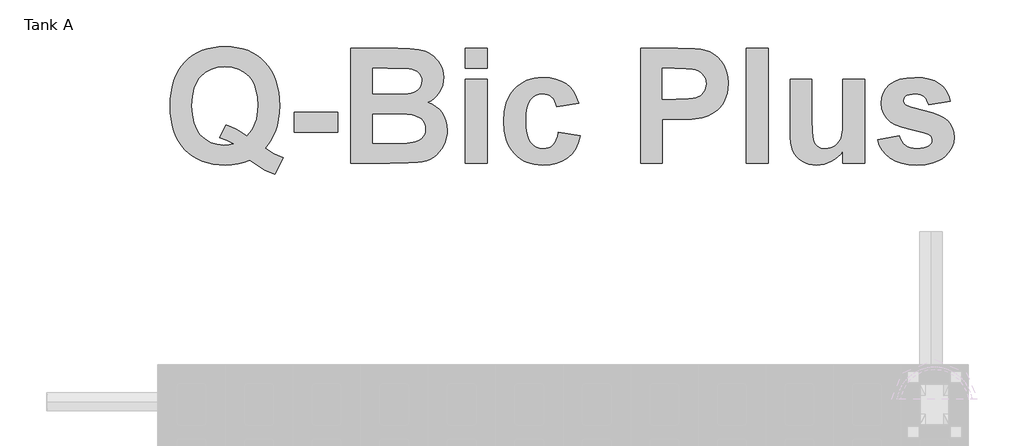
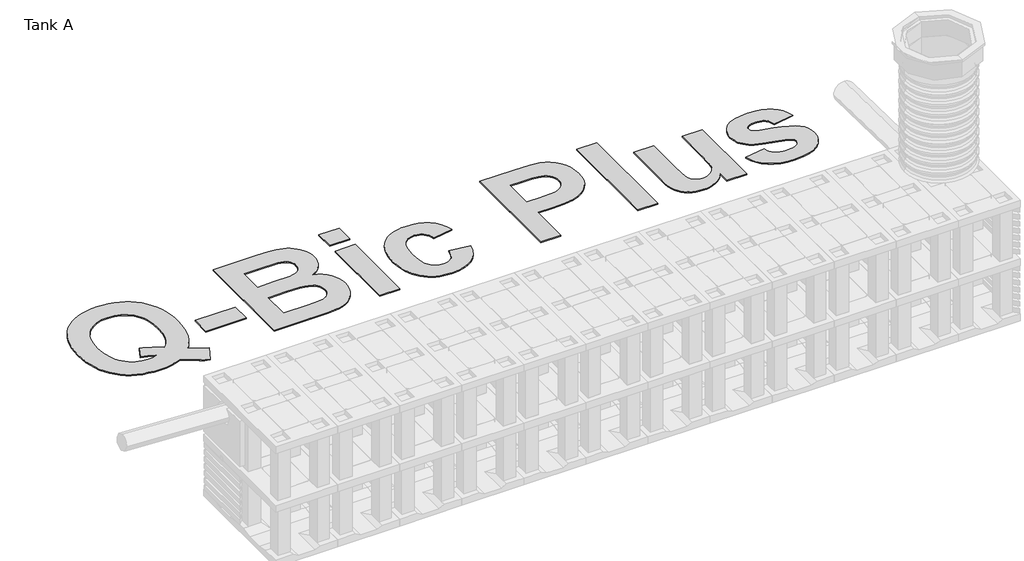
# One storey, part 6 of 6: 1 proxy.
"""IFC4 building model written with IfcOpenShell, lengths in millimetres."""

from ifc_helpers import new_model, si_unit, frame, origin, place, context, project, spatial, polyline, outline, extrude, element, save

model = new_model("IFC4")

# Units and contexts
model_context = context("Model", 3, world=origin())
ifc_project = project(units=[si_unit("LENGTHUNIT", "METRE", prefix="MILLI")], contexts=[model_context])

# Site, building, storey
site = spatial("IfcSite", under=ifc_project)
building = spatial("IfcBuilding", under=site)
storey = spatial("IfcBuildingStorey", under=building, Name="Tank A", Elevation=-2300.0)

# Proxy
placement = place(None, origin())
element("IfcBuildingElementProxy", 1, Name="Arial", ObjectType="Arial", at=placement, inside=storey, context=model_context, shape_type="SweptSolid", body=[
    extrude(outline(polyline([(3439.7532774, 11883.2447891), (3516.8041175, 11834.8507886), (3600.1809707, 11797.4640509), (3526.2931372, 11651.712708), (3481.441704, 11667.4012206), (3437.4759127, 11688.1505438), (3304.1235556, 11775.9556062), (3253.8317511, 11757.0250119), (3200.8830211, 11743.5031588), (3145.2773655, 11735.3900469), (3087.0147845, 11732.6856763), (3031.0097993, 11734.8444283), (2978.1282832, 11741.3206842), (2928.3702361, 11752.1144442), (2881.7356579, 11767.2257081), (2838.2245488, 11786.6544759), (2797.8369086, 11810.4007478), (2760.5727374, 11838.4645236), (2726.4320352, 11870.8458034), (2695.889253, 11907.1333963), (2669.4188418, 11946.9161114), (2647.0208015, 11990.1939489), (2628.6951321, 12036.9669085), (2614.4418338, 12087.2349905), (2604.2609064, 12140.9981947), (2598.1523499, 12198.2565212), (2596.1161644, 12259.0099699), (2598.168165, 12319.5914302), (2604.3241665, 12376.713352), (2614.5841691, 12430.3757354), (2628.9481727, 12480.5785803), (2647.4161773, 12527.3218868), (2669.9881829, 12570.6056549), (2696.6641896, 12610.4298845), (2727.4441973, 12646.7945757), (2761.7390961, 12679.264815), (2798.9597759, 12707.4056891), (2839.1062368, 12731.217198), (2882.1784788, 12750.6993416), (2928.1765019, 12765.8521199), (2977.1003061, 12776.6755331), (3028.9498913, 12783.1695809), (3083.7252576, 12785.3342635), (3138.0143117, 12783.1794653), (3189.4171222, 12776.7150706), (3237.9336893, 12765.9410795), (3283.5640129, 12750.8574919), (3326.3080929, 12731.4643079), (3366.1659295, 12707.7615274), (3403.1375226, 12679.7491504), (3437.2228721, 12647.427177), (3467.8249607, 12611.2265668), (3494.3467708, 12571.5782794), (3516.7883025, 12528.4823148), (3535.1495556, 12481.9386731), (3549.4305303, 12431.9473543), (3559.6312265, 12378.5083582), (3565.7516442, 12321.621685), (3567.7917834, 12261.2873347), (3565.4511586, 12197.6160124), (3558.429284, 12137.9300783), (3546.7261597, 12082.2295326), (3530.3417856, 12030.5143751), (3514.0523018, 11992.7480767), (3493.5243891, 11955.6143795), (3468.7580477, 11919.1132837), (3439.7532774, 11883.2447891)]), holes=[polyline([(3278.5664625, 11994.3295799), (3300.8577513, 12018.7005456), (3320.1599989, 12045.5070263), (3336.4732053, 12074.7490221), (3349.7973705, 12106.4265329), (3360.1483095, 12140.5395588), (3367.5418374, 12177.0880997), (3373.4566596, 12257.4917268), (3368.4274792, 12339.8643254), (3353.3399378, 12411.118956), (3342.0242818, 12442.5770332), (3328.1940356, 12471.2556184), (3311.8491991, 12497.1547116), (3292.9897724, 12520.2743128), (3249.6407674, 12558.3015593), (3200.0606394, 12585.4638782), (3144.2493884, 12601.7612696), (3082.2070145, 12607.1937334), (3020.2516232, 12601.8008072), (2964.4482798, 12585.6220286), (2914.7969841, 12558.6573975), (2871.2977362, 12520.9069141), (2852.34935, 12497.9751165), (2835.9274152, 12472.3231332), (2822.031932, 12443.9509642), (2810.6629002, 12412.8586096), (2795.5041912, 12342.5133434), (2790.4512882, 12261.2873347), (2795.4330236, 12178.8910134), (2810.3782296, 12107.5652152), (2821.5871342, 12076.0537623), (2835.2869064, 12047.30994), (2851.4775463, 12021.3337486), (2870.1590539, 11998.1251878), (2912.6382321, 11959.9318835), (2960.3680013, 11932.6509518), (3013.3483614, 11916.2823928), (3071.5793124, 11910.8262064), (3115.671624, 11914.1157333), (3157.3600506, 11923.9843138), (3095.8712029, 11953.463535), (3033.370193, 11975.604581), (3089.5451897, 12088.9667366), (3138.4610864, 12071.1906397), (3186.2699307, 12049.4924146), (3232.9717227, 12023.8720613), (3278.5664625, 11994.3295799)])]), frame((0.0, 0.0, -2300.0), z_axis=(0.0, 0.0, 1.0), x_axis=(1.0, 0.0, 0.0)), (0.0, 0.0, 1.0), 10.0),
    extrude(outline(polyline([(3697.3485327, 12024.188362), (3697.3485327, 12202.3288921), (4086.0187803, 12202.3288921), (4086.0187803, 12024.188362), (3697.3485327, 12024.188362)])), frame((0.0, 0.0, -2300.0), z_axis=(0.0, 0.0, 1.0), x_axis=(1.0, 0.0, 0.0)), (0.0, 0.0, 1.0), 10.0),
    extrude(outline(polyline([(4199.3809358, 12769.1396699), (4618.163006, 12769.1396699), (4726.6225013, 12766.6092646), (4803.5151911, 12759.0180489), (4861.3982114, 12743.3611663), (4887.9200215, 12731.3812789), (4912.8286982, 12716.6337608), (4935.9265537, 12699.1739645), (4957.0159001, 12679.0572427), (4976.0967372, 12656.2835954), (4993.1690652, 12630.8530226), (5007.2286294, 12603.2795128), (5017.2711753, 12574.0770546), (5023.2967028, 12543.245648), (5025.305212, 12510.7852931), (5022.9092345, 12475.5810299), (5015.721302, 12441.8317498), (5003.7414147, 12409.5374527), (4986.9695723, 12378.6981386), (4966.0858214, 12350.468305), (4941.7702084, 12326.0024491), (4914.0227332, 12305.3005711), (4882.8433959, 12288.3626709), (4922.5391284, 12272.4527479), (4957.3638308, 12251.7983149), (4987.317503, 12226.3993722), (5012.4001451, 12196.2559195), (5032.2163813, 12162.301044), (5046.3708357, 12125.4678324), (5054.8635084, 12085.7562849), (5057.6943993, 12043.1664014), (5055.6621675, 12008.7449824), (5049.5654724, 11974.8138294), (5039.4043138, 11941.3729424), (5025.1786917, 11908.4223214), (5007.4342248, 11877.3615969), (4986.7165318, 11849.5903992), (4963.0256126, 11825.1087283), (4936.3614671, 11803.9165843), (4906.5738528, 11786.2432851), (4873.5125266, 11772.3181486), (4837.1774886, 11762.141175), (4797.5687388, 11755.7123641), (4709.3841155, 11751.2208948), (4548.0707803, 11748.8802699), (4199.3809358, 11748.8802699), (4199.3809358, 12769.1396699)]), holes=[polyline([(4393.7160596, 12590.9991397), (4393.7160596, 12364.2748286), (4541.9978077, 12364.2748286), (4706.4741495, 12367.5643555), (4733.905324, 12372.0400098), (4758.2525671, 12379.3940001), (4779.5158787, 12389.6263263), (4797.695259, 12402.7369886), (4812.2529968, 12418.4413162), (4822.6513809, 12436.4546386), (4828.8904113, 12456.7769559), (4830.9700882, 12479.4082679), (4829.1750819, 12501.0036952), (4823.7900632, 12520.4957232), (4814.8150321, 12537.8843519), (4802.2499885, 12553.1695811), (4786.1581925, 12566.0034803), (4766.6029044, 12576.0381187), (4743.5841241, 12583.2734962), (4717.1018516, 12587.7096129), (4523.7788899, 12590.9991397), (4393.7160596, 12590.9991397)]), polyline([(4393.7160596, 12186.1342985), (4393.7160596, 11927.0208001), (4599.1849665, 11927.0208001), (4697.3646905, 11928.5390432), (4751.5153631, 11933.0937727), (4775.1588372, 11938.4471613), (4796.4933165, 11946.6630709), (4815.5188011, 11957.7415014), (4832.2352908, 11971.6824529), (4845.8520341, 11988.359405), (4855.5782793, 12007.6458376), (4861.4140264, 12029.5417506), (4863.3592755, 12054.047144), (4861.8568473, 12074.9862475), (4857.349563, 12094.2805876), (4849.8374224, 12111.9301643), (4839.3204255, 12127.9349776), (4825.9725378, 12142.089432), (4809.9677245, 12154.1879321), (4769.9873214, 12172.2170696), (4740.6978806, 12178.3058572), (4698.1238121, 12182.6549913), (4573.1217924, 12186.1342985), (4393.7160596, 12186.1342985)])]), frame((0.0, 0.0, -2300.0), z_axis=(0.0, 0.0, 1.0), x_axis=(1.0, 0.0, 0.0)), (0.0, 0.0, 1.0), 10.0),
    extrude(outline(polyline([(5219.6403358, 11748.8802699), (5219.6403358, 12493.8315778), (5413.9754596, 12493.8315778), (5413.9754596, 11748.8802699), (5219.6403358, 11748.8802699)])), frame((0.0, 0.0, -2300.0), z_axis=(0.0, 0.0, 1.0), x_axis=(1.0, 0.0, 0.0)), (0.0, 0.0, 1.0), 10.0),
    extrude(outline(polyline([(5219.6403358, 12590.9991397), (5219.6403358, 12769.1396699), (5413.9754596, 12769.1396699), (5413.9754596, 12590.9991397), (5219.6403358, 12590.9991397)])), frame((0.0, 0.0, -2300.0), z_axis=(0.0, 0.0, 1.0), x_axis=(1.0, 0.0, 0.0)), (0.0, 0.0, 1.0), 10.0),
    extrude(outline(polyline([(6223.7051421, 12283.3018604), (6029.3700183, 12250.9126731), (6023.3682133, 12277.3791306), (6014.4722573, 12300.3504658), (6002.6821503, 12319.8266788), (5987.9978923, 12335.8077695), (5970.6567088, 12348.2621079), (5950.8958252, 12357.1580639), (5928.7152416, 12362.4956374), (5904.114958, 12364.2748286), (5871.5676204, 12360.9378567), (5842.49959, 12350.9269409), (5816.9108668, 12334.2420812), (5794.8014509, 12310.8832777), (5776.9779088, 12279.7118479), (5764.2468074, 12239.5891096), (5756.6081465, 12190.5150626), (5754.0619262, 12132.489707), (5756.7109442, 12068.0118181), (5764.6579982, 12013.7504403), (5777.9030883, 11969.7055738), (5796.4462143, 11935.8772185), (5819.4491796, 11910.7471313), (5846.0737874, 11892.797069), (5876.3200377, 11882.0270316), (5910.1879306, 11878.4370191), (5935.6738561, 11880.4850659), (5958.7400815, 11886.6292062), (5979.3866069, 11896.8694399), (5997.6134323, 11911.2057672), (6013.3731125, 11930.5554599), (6026.6182025, 11955.83579), (6037.3487023, 11987.0467573), (6045.5646119, 12024.188362), (6239.8997357, 11991.7991747), (6221.989211, 11931.5834371), (6197.3572973, 11879.2277708), (6166.0039947, 11834.7321758), (6127.9293031, 11798.0966522), (6082.9750721, 11769.4793502), (6030.9831516, 11749.0384203), (5971.9535415, 11736.7738623), (5905.8862417, 11732.6856763), (5867.3509372, 11734.2948559), (5830.8201882, 11739.1223947), (5796.2939946, 11747.1682926), (5763.7723564, 11758.4325498), (5733.2552736, 11772.9151661), (5704.7427462, 11790.6161417), (5678.2347743, 11811.5354764), (5653.7313577, 11835.6731703), (5631.6990401, 11862.6536163), (5612.6043648, 11892.1012075), (5596.4473318, 11924.0159438), (5583.2279412, 11958.3978253), (5572.946193, 11995.2468519), (5565.6020871, 12034.5630235), (5559.7268024, 12120.5968023), (5565.5625495, 12207.6032056), (5572.8572334, 12247.2811462), (5583.0697909, 12284.4089127), (5596.2002219, 12318.9865052), (5612.2485265, 12351.0139236), (5631.2147047, 12380.491168), (5653.0987564, 12407.4182383), (5677.4736758, 12431.4669726), (5703.912457, 12452.3092091), (5732.4151, 12469.9449476), (5762.9816047, 12484.3741882), (5795.6119713, 12495.5969309), (5830.3061996, 12503.6131757), (5867.0642898, 12508.4229225), (5905.8862417, 12510.0261715), (5967.7072051, 12506.5231417), (6022.8542247, 12496.0140524), (6071.3273004, 12478.4989035), (6113.1264323, 12453.977695), (6148.8842216, 12422.2922767), (6179.2332697, 12383.2844981), (6204.1735765, 12336.9543594), (6223.7051421, 12283.3018604)])), frame((0.0, 0.0, -2300.0), z_axis=(0.0, 0.0, 1.0), x_axis=(1.0, 0.0, 0.0)), (0.0, 0.0, 1.0), 10.0),
    extrude(outline(polyline([(6774.3213262, 11748.8802699), (6774.3213262, 12769.1396699), (7103.0209692, 12769.1396699), (7257.43895, 12765.344062), (7310.2137147, 12760.5995522), (7346.6989955, 12753.9572384), (7388.569295, 12739.2097202), (7426.8812121, 12717.7408131), (7461.6347468, 12689.550517), (7492.8298991, 12654.638832), (7518.5688651, 12613.5909142), (7536.9538408, 12566.9919199), (7547.9848262, 12514.841849), (7551.6618214, 12457.1407016), (7549.5030694, 12412.312991), (7543.0268134, 12371.201813), (7532.2330535, 12333.8071678), (7517.1217896, 12300.1290554), (7498.6814613, 12270.0172328), (7477.9005081, 12243.3214573), (7454.7789301, 12220.0417289), (7429.3167272, 12200.1780477), (7375.6405056, 12169.9713349), (7321.1419024, 12151.9738275), (7229.7310124, 12141.156345), (7104.7922528, 12137.5505175), (6968.65645, 12137.5505175), (6968.65645, 11748.8802699), (6774.3213262, 11748.8802699)]), holes=[polyline([(6968.65645, 12590.9991397), (6968.65645, 12315.6910477), (7089.3567808, 12315.6910477), (7198.0693167, 12319.4866556), (7236.2230834, 12324.2311654), (7263.5751828, 12330.8734792), (7302.7332041, 12350.3892298), (7318.7538324, 12363.3970943), (7332.4022058, 12378.5716184), (7343.3066709, 12395.485796), (7351.0955746, 12413.7126214), (7355.7689168, 12433.2520945), (7357.3266976, 12454.1042153), (7355.1363155, 12479.3924528), (7348.5651694, 12502.3716956), (7337.6132591, 12523.0419435), (7322.2805848, 12541.4031967), (7303.6109385, 12556.9968191), (7282.6481124, 12569.3641748), (7259.3921066, 12578.5052638), (7233.842921, 12584.4200861), (7174.4416576, 12589.3543763), (7075.1865113, 12590.9991397), (6968.65645, 12590.9991397)])]), frame((0.0, 0.0, -2300.0), z_axis=(0.0, 0.0, 1.0), x_axis=(1.0, 0.0, 0.0)), (0.0, 0.0, 1.0), 10.0),
    extrude(outline(polyline([(7713.6077579, 11748.8802699), (7713.6077579, 12769.1396699), (7907.9428817, 12769.1396699), (7907.9428817, 11748.8802699), (7713.6077579, 11748.8802699)])), frame((0.0, 0.0, -2300.0), z_axis=(0.0, 0.0, 1.0), x_axis=(1.0, 0.0, 0.0)), (0.0, 0.0, 1.0), 10.0),
    extrude(outline(polyline([(8571.9212213, 11748.8802699), (8571.9212213, 11858.1937771), (8551.0532855, 11830.5253771), (8527.1646783, 11805.9725386), (8500.2553999, 11784.5352615), (8470.3254502, 11766.213546), (8438.4344365, 11751.545103), (8405.6419658, 11741.0676437), (8371.9480383, 11734.7811681), (8337.3526539, 11732.6856763), (8302.7019169, 11734.7416306), (8269.8540937, 11740.9094934), (8238.8091842, 11751.1892647), (8209.5671884, 11765.5809446), (8183.1877136, 11783.6970648), (8160.7303669, 11805.1501569), (8142.1951484, 11829.9402209), (8127.5820581, 11858.0672568), (8116.5115351, 11890.7173922), (8108.6040186, 11929.0767544), (8103.8595088, 11973.1453434), (8102.2780055, 12022.9231594), (8102.2780055, 12493.8315778), (8296.6131293, 12493.8315778), (8296.6131293, 12149.4434223), (8299.2384247, 12021.9426273), (8307.1143111, 11955.7408998), (8321.980442, 11923.8577935), (8345.576471, 11899.3128625), (8377.3014269, 11883.65598), (8416.5543385, 11878.4370191), (8440.4587607, 11880.1766728), (8463.0821652, 11885.3956336), (8484.424552, 11894.0939017), (8504.4859212, 11906.271477), (8522.3727234, 11921.0348102), (8537.1914092, 11937.4903518), (8548.9419786, 11955.6381021), (8557.6244316, 11975.4780608), (8563.8792771, 12003.6367268), (8568.3470239, 12046.7405989), (8571.9212213, 12177.7839611), (8571.9212213, 12493.8315778), (8766.2563451, 12493.8315778), (8766.2563451, 11748.8802699), (8571.9212213, 11748.8802699)])), frame((0.0, 0.0, -2300.0), z_axis=(0.0, 0.0, 1.0), x_axis=(1.0, 0.0, 0.0)), (0.0, 0.0, 1.0), 10.0),
    extrude(outline(polyline([(8879.6185007, 11959.4099874), (9073.9536245, 11991.7991747), (9081.6160079, 11965.6411103), (9092.4572129, 11942.835833), (9106.4772396, 11923.3833425), (9123.6760878, 11907.2836391), (9144.3226132, 11894.6632429), (9168.6856713, 11885.6486741), (9196.7652622, 11880.2399329), (9228.5613857, 11878.4370191), (9263.338643, 11880.1608577), (9293.5295407, 11885.3323735), (9319.1340789, 11893.9515664), (9340.1522576, 11906.0184365), (9351.2227806, 11916.4563581), (9359.130297, 11928.5390432), (9363.8748069, 11942.2664918), (9365.4563102, 11957.6387037), (9362.1035232, 11977.7554255), (9352.0451623, 11994.0765394), (9329.0817346, 12007.4244272), (9288.5319904, 12019.6336325), (9184.1685885, 12045.0325753), (9100.8391804, 12069.3560958), (9038.5437659, 12092.6041942), (8997.2823452, 12114.7768702), (8959.9746827, 12147.8144739), (8933.3263523, 12186.7036397), (8917.3373541, 12231.4443676), (8912.007688, 12282.0366578), (8916.5782325, 12328.327259), (8930.289866, 12370.7906222), (8953.1425885, 12409.4267475), (8985.1363999, 12444.2356348), (9026.7457514, 12473.0189946), (9078.4450938, 12493.5785373), (9140.2344272, 12505.914263), (9212.1137516, 12510.0261715), (9280.5453988, 12506.7050146), (9339.5829164, 12496.7415439), (9389.2263046, 12480.1357594), (9429.4755632, 12456.8876611), (9462.2601263, 12427.1237692), (9489.509428, 12390.9706041), (9511.2234681, 12348.4281657), (9527.4022467, 12299.496454), (9333.0671229, 12267.1072667), (9318.7703332, 12308.6691731), (9308.3007814, 12325.3224027), (9295.6171251, 12339.2238166), (9280.3714334, 12350.1836344), (9262.2157757, 12358.0120756), (9241.1501519, 12362.7091404), (9217.1745621, 12364.2748286), (9161.8219471, 12358.9609776), (9141.0251789, 12352.3186638), (9124.8147702, 12343.0194245), (9110.9608014, 12325.5596282), (9106.3428118, 12303.5451025), (9110.9608014, 12284.5038029), (9124.8147702, 12268.3724694), (9144.8603243, 12257.7605823), (9180.1990153, 12245.1560011), (9296.7558074, 12213.9687563), (9364.7683563, 12195.3544627), (9421.662937, 12174.6842147), (9467.4395496, 12151.9580125), (9502.0981941, 12127.175856), (9527.3389866, 12098.4083112), (9545.368124, 12064.4850657), (9556.1856065, 12025.4061195), (9559.791434, 11981.1714726), (9554.5645656, 11931.9788129), (9538.8839605, 11886.3761656), (9512.7496187, 11844.3635308), (9476.1615402, 11805.9409085), (9453.9987485, 11788.7717135), (9429.3253204, 11773.8917444), (9372.4465547, 11750.9994843), (9305.5252432, 11737.2641283), (9228.5613857, 11732.6856763), (9158.0500617, 11736.4970992), (9095.3039188, 11747.931368), (9040.3229571, 11766.9884826), (8993.1071765, 11793.668443), (8953.5142417, 11826.895827), (8921.4018175, 11865.5952125), (8896.7699038, 11909.7665992), (8879.6185007, 11959.4099874)])), frame((0.0, 0.0, -2300.0), z_axis=(0.0, 0.0, 1.0), x_axis=(1.0, 0.0, 0.0)), (0.0, 0.0, 1.0), 10.0),
])

save(model, "model.ifc")
